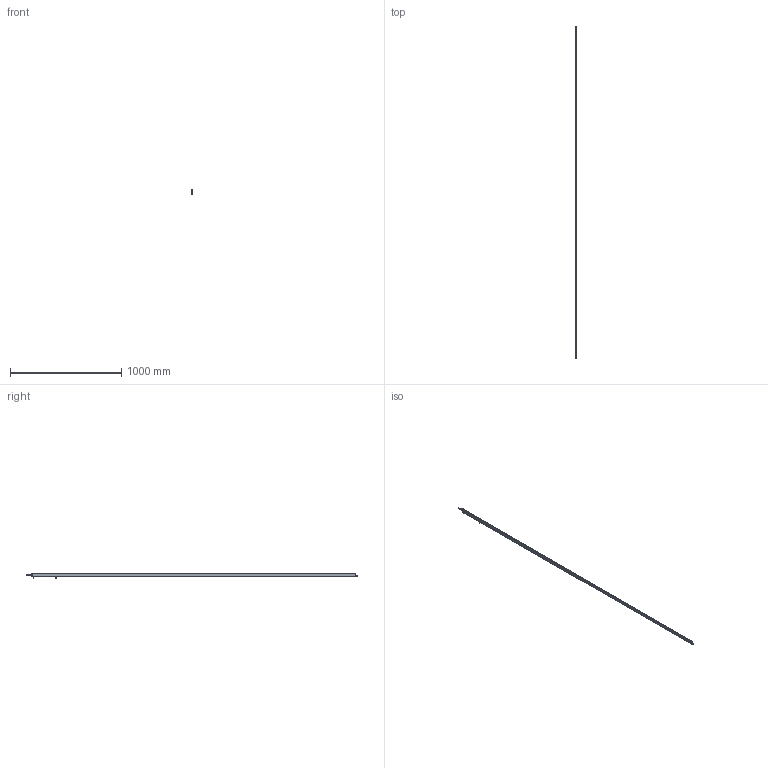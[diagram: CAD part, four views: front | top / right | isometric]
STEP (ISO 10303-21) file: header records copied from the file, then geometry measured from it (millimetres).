
FILE_DESCRIPTION (( 'STEP AP214' ), '1' );
FILE_NAME ('ILG-B-K2-2910mm.STEP', '2017-07-10T13:11:39', ( '' ), ( '' ), 'SwSTEP 2.0', 'SolidWorks 2016', '' );
FILE_SCHEMA (( 'AUTOMOTIVE_DESIGN' ));
Length unit declared in the file: millimetre
Products named in the file (1): ILG-B-K2-2910mm
Bounding box: 9 x 2983.5 x 46.21 mm (x, y, z)
Surface area: 481210.8 mm2 (no closed solid volume)
Topology: 0 solids, 15 shells, 702 faces, 1822 edges, 1157 vertices
Faces by surface type: cylinder 287, plane 266, cone 99, bspline 32, torus 18
Entity records: 31388 total; most frequent: CARTESIAN_POINT 6631, ORIENTED_EDGE 3597, DIRECTION 3488, EDGE_CURVE 1806, AXIS2_PLACEMENT_3D 1342, VERTEX_POINT 1157, LINE 804, VECTOR 804
